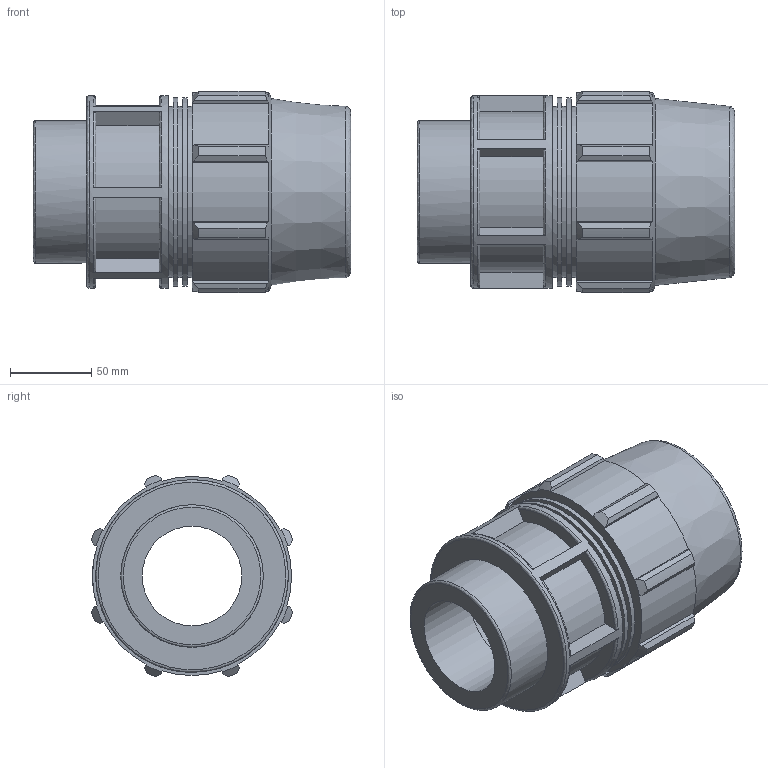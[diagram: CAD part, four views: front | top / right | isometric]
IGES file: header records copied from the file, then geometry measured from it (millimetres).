
Global section: file name: 870200075030_180200075030_840206075030.ipt; native system: Autodesk Inventor 2015; preprocessor: unknown; author: KIM; date: 20180325.201140; units: millimetre
Bounding box: 196 x 124.2 x 124.2 mm (x, y, z)
Volume: 1022289.2 mm3; surface area: 151608.3 mm2
Topology: 1 solids, 1 shells, 125 faces, 334 edges, 225 vertices
Faces by surface type: plane 67, cylinder 29, revolution 19, cone 10
Full cylindrical faces by diameter (mm): 87.884 x1, 105.6 x3, 116.424 x2, 118.8 x1
